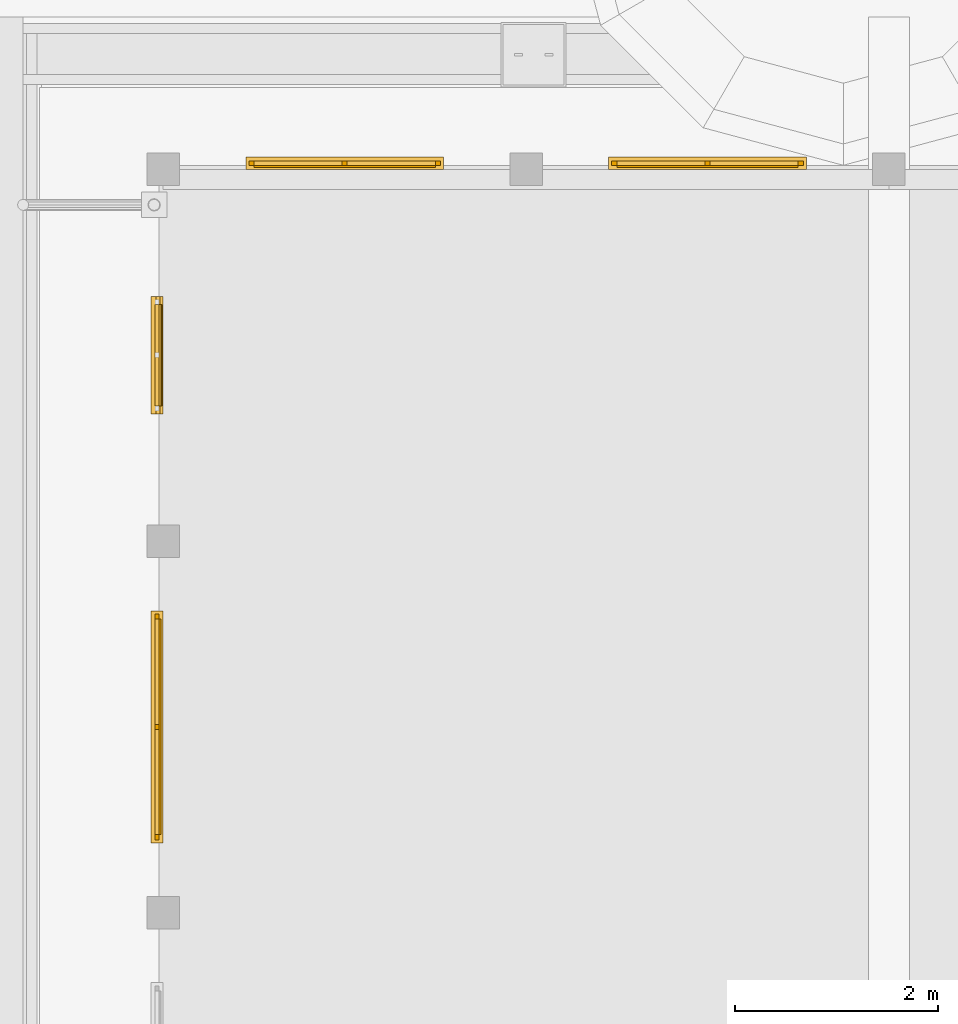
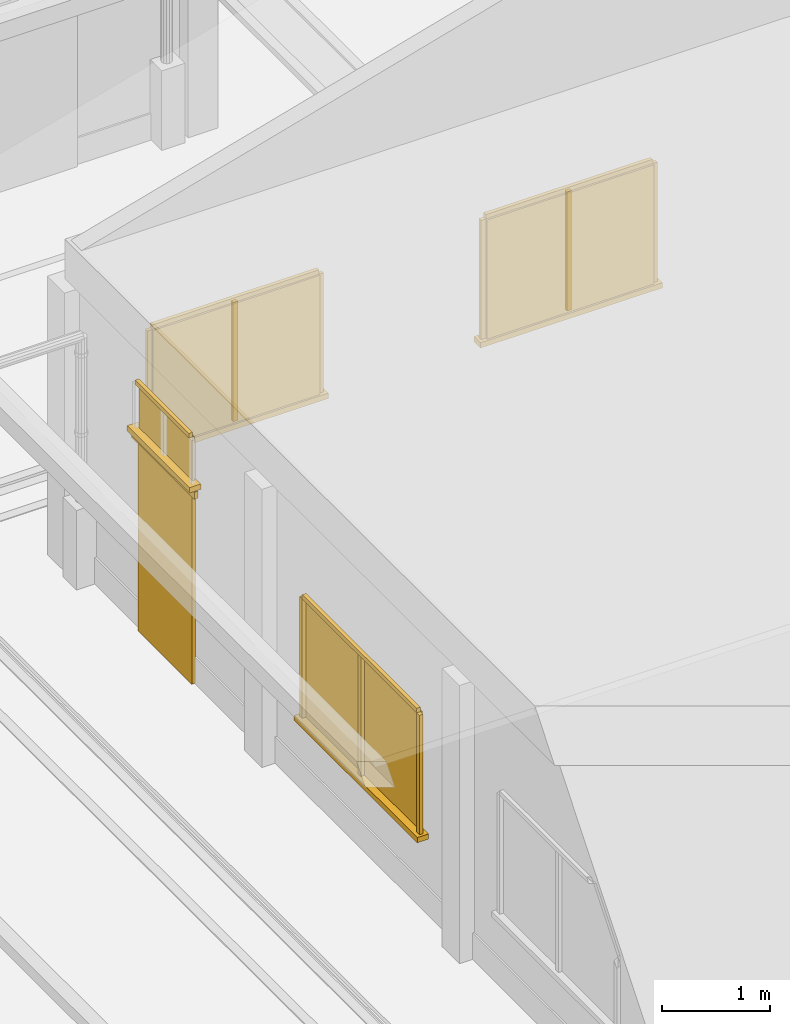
# One storey, part 60 of 177: 21 windows, 2 doors.
"""IFC4 building model written with IfcOpenShell, lengths in metres."""

from ifc_helpers import new_model, si_unit, origin, origin_with_axes, place, context, subcontext, project, spatial, triangles, element, save


model = new_model("IFC4")

# Units and contexts
model_context = context("Model", 3, precision=1e-05, world=origin_with_axes())
body_context = subcontext(model_context, "Body", "Model", "MODEL_VIEW")
ifc_project = project(units=[si_unit("LENGTHUNIT", "METRE"), si_unit("AREAUNIT", "SQUARE_METRE"), si_unit("VOLUMEUNIT", "CUBIC_METRE"), si_unit("PLANEANGLEUNIT", "RADIAN")], contexts=[model_context])

# Site, building, storey
site_placement = place(None, origin_with_axes())
site = spatial("IfcSite", under=ifc_project, at=site_placement, Name="Predio Los Mangos - Morales, San Martín", CompositionType="ELEMENT")
building_placement = place(site_placement, origin())
building = spatial("IfcBuilding", under=site, at=building_placement, Name="Hogar de Refugio Temporal", CompositionType="ELEMENT")
storey_placement = place(building_placement, origin())
storey = spatial("IfcBuildingStorey", under=building, at=storey_placement, Name="NIVEL 1 (NPT +0.00)", CompositionType="ELEMENT", Elevation=0.0)

# Windows
window_1_placement = place(storey_placement, origin())
element("IfcWindow", 1, at=window_1_placement, inside=storey, Name="E-05_vg0_vid", ObjectType="Ventana", PredefinedType="WINDOW", context=body_context, shape_type="Tessellation", body=[
    triangles([(46.1937, 87.22, 1.05), (47.9813, 87.22, 1.05), (47.9813, 87.24, 1.05), (46.1937, 87.24, 1.05), (46.1937, 87.22, 2.4), (47.9813, 87.22, 2.4), (47.9813, 87.24, 2.4), (46.1937, 87.24, 2.4)], [[1, 4, 3], [1, 3, 2], [5, 6, 7], [5, 7, 8], [1, 2, 6], [1, 6, 5], [2, 3, 7], [2, 7, 6], [3, 4, 8], [3, 8, 7], [4, 1, 5], [4, 5, 8]]),
])
window_2_placement = place(storey_placement, origin())
element("IfcWindow", 2, at=window_2_placement, inside=storey, Name="E-05_vg0_m", ObjectType="Ventana", PredefinedType="WINDOW", context=body_context, shape_type="Tessellation", body=[
    triangles([(46.1437, 87.24, 1.05), (46.1937, 87.24, 1.05), (46.1937, 87.28, 1.05), (46.1437, 87.28, 1.05), (46.1437, 87.24, 2.4), (46.1937, 87.24, 2.4), (46.1937, 87.28, 2.4), (46.1437, 87.28, 2.4)], [[1, 4, 3], [1, 3, 2], [5, 6, 7], [5, 7, 8], [1, 2, 6], [1, 6, 5], [2, 3, 7], [2, 7, 6], [3, 4, 8], [3, 8, 7], [4, 1, 5], [4, 5, 8]]),
])
window_3_placement = place(storey_placement, origin())
element("IfcWindow", 3, at=window_3_placement, inside=storey, Name="E-05_vg0_m", ObjectType="Ventana", PredefinedType="WINDOW", context=body_context, shape_type="Tessellation", body=[
    triangles([(47.9813, 87.24, 1.05), (48.0312, 87.24, 1.05), (48.0312, 87.28, 1.05), (47.9813, 87.28, 1.05), (47.9813, 87.24, 2.4), (48.0312, 87.24, 2.4), (48.0312, 87.28, 2.4), (47.9813, 87.28, 2.4)], [[1, 4, 3], [1, 3, 2], [5, 6, 7], [5, 7, 8], [1, 2, 6], [1, 6, 5], [2, 3, 7], [2, 7, 6], [3, 4, 8], [3, 8, 7], [4, 1, 5], [4, 5, 8]]),
])
window_4_placement = place(storey_placement, origin())
element("IfcWindow", 4, at=window_4_placement, inside=storey, Name="E-05_vg0_m", ObjectType="Ventana", PredefinedType="WINDOW", context=body_context, shape_type="Tessellation", body=[
    triangles([(46.1937, 87.24, 2.4), (47.9813, 87.24, 2.4), (47.9813, 87.28, 2.4), (46.1937, 87.28, 2.4), (46.1937, 87.24, 2.45), (47.9813, 87.24, 2.45), (47.9813, 87.28, 2.45), (46.1937, 87.28, 2.45)], [[1, 4, 3], [1, 3, 2], [5, 6, 7], [5, 7, 8], [1, 2, 6], [1, 6, 5], [2, 3, 7], [2, 7, 6], [3, 4, 8], [3, 8, 7], [4, 1, 5], [4, 5, 8]]),
])
window_5_placement = place(storey_placement, origin())
element("IfcWindow", 5, at=window_5_placement, inside=storey, Name="E-05_vg0_m", ObjectType="Ventana", PredefinedType="WINDOW", context=body_context, shape_type="Tessellation", body=[
    triangles([(47.0625, 87.24, 1.05), (47.1125, 87.24, 1.05), (47.1125, 87.28, 1.05), (47.0625, 87.28, 1.05), (47.0625, 87.24, 2.4), (47.1125, 87.24, 2.4), (47.1125, 87.28, 2.4), (47.0625, 87.28, 2.4)], [[1, 4, 3], [1, 3, 2], [5, 6, 7], [5, 7, 8], [1, 2, 6], [1, 6, 5], [2, 3, 7], [2, 7, 6], [3, 4, 8], [3, 8, 7], [4, 1, 5], [4, 5, 8]]),
])
window_6_placement = place(storey_placement, origin())
element("IfcWindow", 6, at=window_6_placement, inside=storey, Name="E-05_vg0_alf", ObjectType="Ventana", PredefinedType="WINDOW", context=body_context, shape_type="Tessellation", body=[
    triangles([(46.1138, 87.2, 0.99), (48.0612, 87.2, 0.99), (48.0612, 87.32, 0.99), (46.1138, 87.32, 0.99), (46.1138, 87.2, 1.05), (48.0612, 87.2, 1.05), (48.0612, 87.32, 1.05), (46.1138, 87.32, 1.05)], [[1, 4, 3], [1, 3, 2], [5, 6, 7], [5, 7, 8], [1, 2, 6], [1, 6, 5], [2, 3, 7], [2, 7, 6], [3, 4, 8], [3, 8, 7], [4, 1, 5], [4, 5, 8]]),
])
window_7_placement = place(storey_placement, origin())
element("IfcWindow", 7, at=window_7_placement, inside=storey, Name="E-05_vg1_vid", ObjectType="Ventana", PredefinedType="WINDOW", context=body_context, shape_type="Tessellation", body=[
    triangles([(49.7687, 87.22, 1.05), (51.5563, 87.22, 1.05), (51.5563, 87.24, 1.05), (49.7687, 87.24, 1.05), (49.7687, 87.22, 2.4), (51.5563, 87.22, 2.4), (51.5563, 87.24, 2.4), (49.7687, 87.24, 2.4)], [[1, 4, 3], [1, 3, 2], [5, 6, 7], [5, 7, 8], [1, 2, 6], [1, 6, 5], [2, 3, 7], [2, 7, 6], [3, 4, 8], [3, 8, 7], [4, 1, 5], [4, 5, 8]]),
])
window_8_placement = place(storey_placement, origin())
element("IfcWindow", 8, at=window_8_placement, inside=storey, Name="E-05_vg1_m", ObjectType="Ventana", PredefinedType="WINDOW", context=body_context, shape_type="Tessellation", body=[
    triangles([(49.7188, 87.24, 1.05), (49.7687, 87.24, 1.05), (49.7687, 87.28, 1.05), (49.7188, 87.28, 1.05), (49.7188, 87.24, 2.4), (49.7687, 87.24, 2.4), (49.7687, 87.28, 2.4), (49.7188, 87.28, 2.4)], [[1, 4, 3], [1, 3, 2], [5, 6, 7], [5, 7, 8], [1, 2, 6], [1, 6, 5], [2, 3, 7], [2, 7, 6], [3, 4, 8], [3, 8, 7], [4, 1, 5], [4, 5, 8]]),
])
window_9_placement = place(storey_placement, origin())
element("IfcWindow", 9, at=window_9_placement, inside=storey, Name="E-05_vg1_m", ObjectType="Ventana", PredefinedType="WINDOW", context=body_context, shape_type="Tessellation", body=[
    triangles([(51.5563, 87.24, 1.05), (51.6063, 87.24, 1.05), (51.6063, 87.28, 1.05), (51.5563, 87.28, 1.05), (51.5563, 87.24, 2.4), (51.6063, 87.24, 2.4), (51.6063, 87.28, 2.4), (51.5563, 87.28, 2.4)], [[1, 4, 3], [1, 3, 2], [5, 6, 7], [5, 7, 8], [1, 2, 6], [1, 6, 5], [2, 3, 7], [2, 7, 6], [3, 4, 8], [3, 8, 7], [4, 1, 5], [4, 5, 8]]),
])
window_10_placement = place(storey_placement, origin())
element("IfcWindow", 10, at=window_10_placement, inside=storey, Name="E-05_vg1_m", ObjectType="Ventana", PredefinedType="WINDOW", context=body_context, shape_type="Tessellation", body=[
    triangles([(49.7687, 87.24, 2.4), (51.5563, 87.24, 2.4), (51.5563, 87.28, 2.4), (49.7687, 87.28, 2.4), (49.7687, 87.24, 2.45), (51.5563, 87.24, 2.45), (51.5563, 87.28, 2.45), (49.7687, 87.28, 2.45)], [[1, 4, 3], [1, 3, 2], [5, 6, 7], [5, 7, 8], [1, 2, 6], [1, 6, 5], [2, 3, 7], [2, 7, 6], [3, 4, 8], [3, 8, 7], [4, 1, 5], [4, 5, 8]]),
])
window_11_placement = place(storey_placement, origin())
element("IfcWindow", 11, at=window_11_placement, inside=storey, Name="E-05_vg1_m", ObjectType="Ventana", PredefinedType="WINDOW", context=body_context, shape_type="Tessellation", body=[
    triangles([(50.6375, 87.24, 1.05), (50.6875, 87.24, 1.05), (50.6875, 87.28, 1.05), (50.6375, 87.28, 1.05), (50.6375, 87.24, 2.4), (50.6875, 87.24, 2.4), (50.6875, 87.28, 2.4), (50.6375, 87.28, 2.4)], [[1, 4, 3], [1, 3, 2], [5, 6, 7], [5, 7, 8], [1, 2, 6], [1, 6, 5], [2, 3, 7], [2, 7, 6], [3, 4, 8], [3, 8, 7], [4, 1, 5], [4, 5, 8]]),
])
window_12_placement = place(storey_placement, origin())
element("IfcWindow", 12, at=window_12_placement, inside=storey, Name="E-05_vg1_alf", ObjectType="Ventana", PredefinedType="WINDOW", context=body_context, shape_type="Tessellation", body=[
    triangles([(49.6888, 87.2, 0.99), (51.6362, 87.2, 0.99), (51.6362, 87.32, 0.99), (49.6888, 87.32, 0.99), (49.6888, 87.2, 1.05), (51.6362, 87.2, 1.05), (51.6362, 87.32, 1.05), (49.6888, 87.32, 1.05)], [[1, 4, 3], [1, 3, 2], [5, 6, 7], [5, 7, 8], [1, 2, 6], [1, 6, 5], [2, 3, 7], [2, 7, 6], [3, 4, 8], [3, 8, 7], [4, 1, 5], [4, 5, 8]]),
])
window_13_placement = place(storey_placement, origin())
element("IfcWindow", 13, at=window_13_placement, inside=storey, Name="E-05_v6_vid", ObjectType="Ventana", PredefinedType="WINDOW", context=body_context, shape_type="Tessellation", body=[
    triangles([(45.26, 80.6441, 1.05), (45.28, 80.6441, 1.05), (45.28, 82.7684, 1.05), (45.26, 82.7684, 1.05), (45.26, 80.6441, 2.4), (45.28, 80.6441, 2.4), (45.28, 82.7684, 2.4), (45.26, 82.7684, 2.4)], [[1, 4, 3], [1, 3, 2], [5, 6, 7], [5, 7, 8], [1, 2, 6], [1, 6, 5], [2, 3, 7], [2, 7, 6], [3, 4, 8], [3, 8, 7], [4, 1, 5], [4, 5, 8]]),
])
window_14_placement = place(storey_placement, origin())
element("IfcWindow", 14, at=window_14_placement, inside=storey, Name="E-05_v6_m", ObjectType="Ventana", PredefinedType="WINDOW", context=body_context, shape_type="Tessellation", body=[
    triangles([(45.22, 80.5941, 1.05), (45.26, 80.5941, 1.05), (45.26, 80.6441, 1.05), (45.22, 80.6441, 1.05), (45.22, 80.5941, 2.4), (45.26, 80.5941, 2.4), (45.26, 80.6441, 2.4), (45.22, 80.6441, 2.4)], [[1, 4, 3], [1, 3, 2], [5, 6, 7], [5, 7, 8], [1, 2, 6], [1, 6, 5], [2, 3, 7], [2, 7, 6], [3, 4, 8], [3, 8, 7], [4, 1, 5], [4, 5, 8]]),
])
window_15_placement = place(storey_placement, origin())
element("IfcWindow", 15, at=window_15_placement, inside=storey, Name="E-05_v6_m", ObjectType="Ventana", PredefinedType="WINDOW", context=body_context, shape_type="Tessellation", body=[
    triangles([(45.22, 82.7684, 1.05), (45.26, 82.7684, 1.05), (45.26, 82.8184, 1.05), (45.22, 82.8184, 1.05), (45.22, 82.7684, 2.4), (45.26, 82.7684, 2.4), (45.26, 82.8184, 2.4), (45.22, 82.8184, 2.4)], [[1, 4, 3], [1, 3, 2], [5, 6, 7], [5, 7, 8], [1, 2, 6], [1, 6, 5], [2, 3, 7], [2, 7, 6], [3, 4, 8], [3, 8, 7], [4, 1, 5], [4, 5, 8]]),
])
window_16_placement = place(storey_placement, origin())
element("IfcWindow", 16, at=window_16_placement, inside=storey, Name="E-05_v6_m", ObjectType="Ventana", PredefinedType="WINDOW", context=body_context, shape_type="Tessellation", body=[
    triangles([(45.22, 80.6441, 2.4), (45.26, 80.6441, 2.4), (45.26, 82.7684, 2.4), (45.22, 82.7684, 2.4), (45.22, 80.6441, 2.45), (45.26, 80.6441, 2.45), (45.26, 82.7684, 2.45), (45.22, 82.7684, 2.45)], [[1, 4, 3], [1, 3, 2], [5, 6, 7], [5, 7, 8], [1, 2, 6], [1, 6, 5], [2, 3, 7], [2, 7, 6], [3, 4, 8], [3, 8, 7], [4, 1, 5], [4, 5, 8]]),
])
window_17_placement = place(storey_placement, origin())
element("IfcWindow", 17, at=window_17_placement, inside=storey, Name="E-05_v6_m", ObjectType="Ventana", PredefinedType="WINDOW", context=body_context, shape_type="Tessellation", body=[
    triangles([(45.22, 81.6813, 1.05), (45.26, 81.6813, 1.05), (45.26, 81.7312, 1.05), (45.22, 81.7312, 1.05), (45.22, 81.6813, 2.4), (45.26, 81.6813, 2.4), (45.26, 81.7312, 2.4), (45.22, 81.7312, 2.4)], [[1, 4, 3], [1, 3, 2], [5, 6, 7], [5, 7, 8], [1, 2, 6], [1, 6, 5], [2, 3, 7], [2, 7, 6], [3, 4, 8], [3, 8, 7], [4, 1, 5], [4, 5, 8]]),
])
window_18_placement = place(storey_placement, origin())
element("IfcWindow", 18, at=window_18_placement, inside=storey, Name="E-05_v6_alf", ObjectType="Ventana", PredefinedType="WINDOW", context=body_context, shape_type="Tessellation", body=[
    triangles([(45.3, 80.5641, 0.99), (45.18, 80.5641, 0.99), (45.18, 82.8484, 0.99), (45.3, 82.8484, 0.99), (45.3, 80.5641, 1.05), (45.18, 80.5641, 1.05), (45.18, 82.8484, 1.05), (45.3, 82.8484, 1.05)], [[1, 4, 3], [1, 3, 2], [5, 6, 7], [5, 7, 8], [1, 2, 6], [1, 6, 5], [2, 3, 7], [2, 7, 6], [3, 4, 8], [3, 8, 7], [4, 1, 5], [4, 5, 8]]),
])

# Doors
door_1_placement = place(storey_placement, origin())
element("IfcDoor", 19, at=door_1_placement, inside=storey, Name="E-05_p7", ObjectType="Puerta", PredefinedType="DOOR", context=body_context, shape_type="Tessellation", body=[
    triangles([(45.25, 84.8688, 0.15), (45.29, 84.8688, 0.15), (45.29, 85.8688, 0.15), (45.25, 85.8688, 0.15), (45.25, 84.8688, 2.3), (45.29, 84.8688, 2.3), (45.29, 85.8688, 2.3), (45.25, 85.8688, 2.3)], [[1, 4, 3], [1, 3, 2], [5, 6, 7], [5, 7, 8], [1, 2, 6], [1, 6, 5], [2, 3, 7], [2, 7, 6], [3, 4, 8], [3, 8, 7], [4, 1, 5], [4, 5, 8]]),
])
door_2_placement = place(storey_placement, origin())
element("IfcDoor", 20, at=door_2_placement, inside=storey, Name="E-05_p7_marco", ObjectType="Puerta", PredefinedType="DOOR", context=body_context, shape_type="Tessellation", body=[
    triangles([(45.23, 84.7887, 2.3), (45.27, 84.7887, 2.3), (45.27, 85.9488, 2.3), (45.23, 85.9488, 2.3), (45.23, 84.7887, 2.38), (45.27, 84.7887, 2.38), (45.27, 85.9488, 2.38), (45.23, 85.9488, 2.38)], [[1, 4, 3], [1, 3, 2], [5, 6, 7], [5, 7, 8], [1, 2, 6], [1, 6, 5], [2, 3, 7], [2, 7, 6], [3, 4, 8], [3, 8, 7], [4, 1, 5], [4, 5, 8]]),
])

# Windows
window_19_placement = place(storey_placement, origin())
element("IfcWindow", 21, at=window_19_placement, inside=storey, Name="E-05_vt7_vid", ObjectType="Ventana", PredefinedType="WINDOW", context=body_context, shape_type="Tessellation", body=[
    triangles([(45.26, 84.8688, 2.45), (45.28, 84.8688, 2.45), (45.28, 85.8688, 2.45), (45.26, 85.8688, 2.45), (45.26, 84.8688, 2.95), (45.28, 84.8688, 2.95), (45.28, 85.8688, 2.95), (45.26, 85.8688, 2.95)], [[1, 4, 3], [1, 3, 2], [5, 6, 7], [5, 7, 8], [1, 2, 6], [1, 6, 5], [2, 3, 7], [2, 7, 6], [3, 4, 8], [3, 8, 7], [4, 1, 5], [4, 5, 8]]),
])
window_20_placement = place(storey_placement, origin())
element("IfcWindow", 22, at=window_20_placement, inside=storey, Name="E-05_vt7_m", ObjectType="Ventana", PredefinedType="WINDOW", context=body_context, shape_type="Tessellation", body=[
    triangles([(45.22, 84.8688, 2.95), (45.26, 84.8688, 2.95), (45.26, 85.8688, 2.95), (45.22, 85.8688, 2.95), (45.22, 84.8688, 3.0), (45.26, 84.8688, 3.0), (45.26, 85.8688, 3.0), (45.22, 85.8688, 3.0)], [[1, 4, 3], [1, 3, 2], [5, 6, 7], [5, 7, 8], [1, 2, 6], [1, 6, 5], [2, 3, 7], [2, 7, 6], [3, 4, 8], [3, 8, 7], [4, 1, 5], [4, 5, 8]]),
])
window_21_placement = place(storey_placement, origin())
element("IfcWindow", 23, at=window_21_placement, inside=storey, Name="E-05_vt7_alf", ObjectType="Ventana", PredefinedType="WINDOW", context=body_context, shape_type="Tessellation", body=[
    triangles([(45.3, 84.7887, 2.39), (45.18, 84.7887, 2.39), (45.18, 85.9488, 2.39), (45.3, 85.9488, 2.39), (45.3, 84.7887, 2.45), (45.18, 84.7887, 2.45), (45.18, 85.9488, 2.45), (45.3, 85.9488, 2.45)], [[1, 4, 3], [1, 3, 2], [5, 6, 7], [5, 7, 8], [1, 2, 6], [1, 6, 5], [2, 3, 7], [2, 7, 6], [3, 4, 8], [3, 8, 7], [4, 1, 5], [4, 5, 8]]),
])

save(model, "model.ifc")
